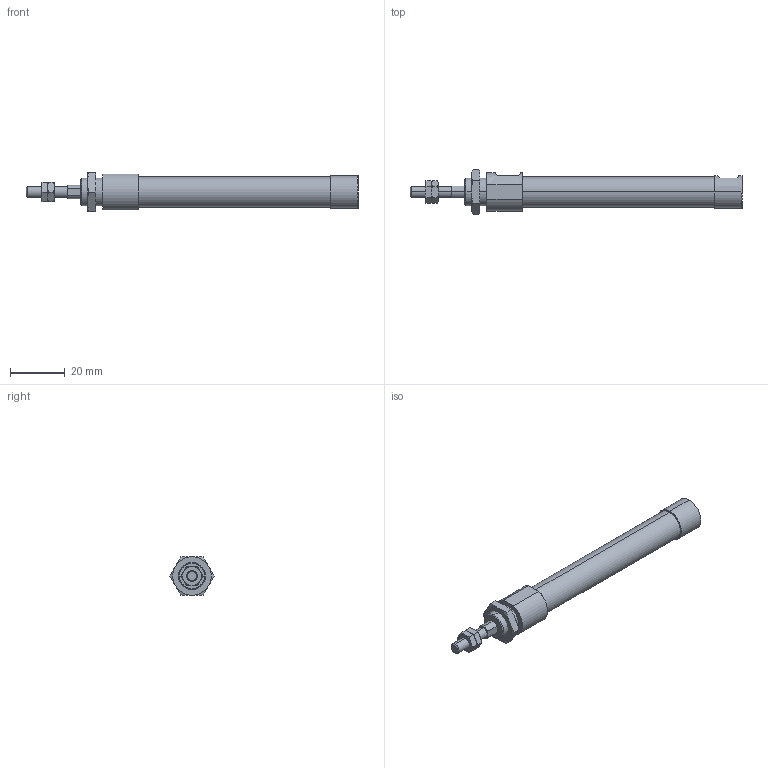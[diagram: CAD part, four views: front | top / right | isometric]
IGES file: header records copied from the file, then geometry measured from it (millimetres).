
Start section: SolidWorks IGES file using analytic representation for surfaces
Global section: file name: C:\Users\Toshiba\Desktop\ZGU2-10-45-N.IGS; native system: SolidWorks 2014; preprocessor: SolidWorks 2014; author: Toshiba; date: 160331.085345; units: millimetre
Bounding box: 121 x 16.17 x 14 mm (x, y, z)
Surface area: 5141.1 mm2 (no closed solid volume)
Topology: 0 solids, 0 shells, 108 faces, 1612 edges, 1608 vertices
Faces by surface type: bspline 77, revolution 31
